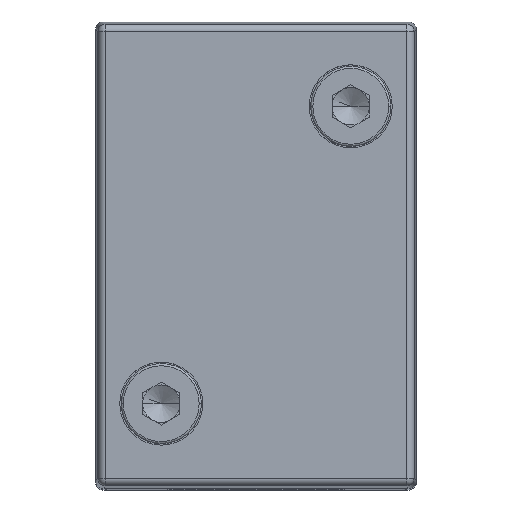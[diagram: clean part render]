
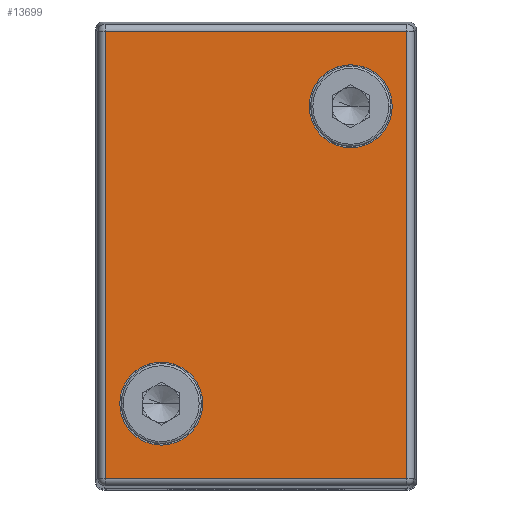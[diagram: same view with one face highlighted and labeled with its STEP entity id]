
A CAD part, top view. The second image highlights one B-rep face of the part: STEP entity #13699.
In plain terms, the highlighted planar face has unit normal (0, 0, 1).
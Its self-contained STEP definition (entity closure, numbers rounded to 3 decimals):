
#1812 = CARTESIAN_POINT ( 'NONE',  ( 21.343, 0.657, 74.5 ) ) ;
#1828 = DIRECTION ( 'NONE',  ( -1., 0., 0. ) ) ;
#1829 = VECTOR ( 'NONE', #1828, 1000. ) ;
#1830 = CARTESIAN_POINT ( 'NONE',  ( 22., 31.343, 74.5 ) ) ;
#1831 = LINE ( 'NONE', #1830, #1829 ) ;
#1842 = CARTESIAN_POINT ( 'NONE',  ( 0.657, 31.343, 74.5 ) ) ;
#1860 = CARTESIAN_POINT ( 'NONE',  ( 21.343, 31.343, 74.5 ) ) ;
#1872 = DIRECTION ( 'NONE',  ( 0., -1., 0. ) ) ;
#1873 = VECTOR ( 'NONE', #1872, 1000. ) ;
#1874 = CARTESIAN_POINT ( 'NONE',  ( 0.657, 32., 74.5 ) ) ;
#1875 = LINE ( 'NONE', #1874, #1873 ) ;
#1876 = CARTESIAN_POINT ( 'NONE',  ( 0.657, 0.657, 74.5 ) ) ;
#1948 = DIRECTION ( 'NONE',  ( 0., 1., 0. ) ) ;
#1949 = VECTOR ( 'NONE', #1948, 1000. ) ;
#1950 = CARTESIAN_POINT ( 'NONE',  ( 21.343, 32., 74.5 ) ) ;
#1951 = LINE ( 'NONE', #1950, #1949 ) ;
#2033 = DIRECTION ( 'NONE',  ( 1., 0., 0. ) ) ;
#2034 = VECTOR ( 'NONE', #2033, 1000. ) ;
#2035 = CARTESIAN_POINT ( 'NONE',  ( 22., 0.657, 74.5 ) ) ;
#2036 = LINE ( 'NONE', #2035, #2034 ) ;
#2042 = DIRECTION ( 'NONE',  ( 1., 0., 0. ) ) ;
#2043 = DIRECTION ( 'NONE',  ( 0., 0., 1. ) ) ;
#2044 = CARTESIAN_POINT ( 'NONE',  ( 4.5, 5.8, 74.5 ) ) ;
#2045 = AXIS2_PLACEMENT_3D ( 'NONE', #2044, #2043, #2042 ) ;
#2046 = CIRCLE ( 'NONE', #2045, 2.85 ) ;
#2048 = DIRECTION ( 'NONE',  ( 1., 0., 0. ) ) ;
#2049 = DIRECTION ( 'NONE',  ( 0., 0., 1. ) ) ;
#2050 = CARTESIAN_POINT ( 'NONE',  ( 22., 32., 74.5 ) ) ;
#2051 = AXIS2_PLACEMENT_3D ( 'NONE', #2050, #2049, #2048 ) ;
#2052 = PLANE ( 'NONE',  #2051 ) ;
#2053 = FACE_BOUND ( 'NONE', #13684, .T. ) ;
#2054 = FACE_BOUND ( 'NONE', #13705, .T. ) ;
#2055 = FACE_OUTER_BOUND ( 'NONE', #13700, .T. ) ;
#2094 = DIRECTION ( 'NONE',  ( 1., 0., 0. ) ) ;
#2095 = DIRECTION ( 'NONE',  ( 0., 0., 1. ) ) ;
#2096 = CARTESIAN_POINT ( 'NONE',  ( 17.5, 26.2, 74.5 ) ) ;
#2097 = AXIS2_PLACEMENT_3D ( 'NONE', #2096, #2095, #2094 ) ;
#2098 = CIRCLE ( 'NONE', #2097, 2.85 ) ;
#3909 = CARTESIAN_POINT ( 'NONE',  ( 14.65, 26.2, 74.5 ) ) ;
#4027 = CARTESIAN_POINT ( 'NONE',  ( 7.35, 5.8, 74.5 ) ) ;
#4028 = DIRECTION ( 'NONE',  ( 1., 0., 0. ) ) ;
#4029 = DIRECTION ( 'NONE',  ( 0., 0., 1. ) ) ;
#4030 = CARTESIAN_POINT ( 'NONE',  ( 4.5, 5.8, 74.5 ) ) ;
#4031 = AXIS2_PLACEMENT_3D ( 'NONE', #4030, #4029, #4028 ) ;
#4032 = CIRCLE ( 'NONE', #4031, 2.85 ) ;
#4039 = CARTESIAN_POINT ( 'NONE',  ( 1.65, 5.8, 74.5 ) ) ;
#4062 = CARTESIAN_POINT ( 'NONE',  ( 20.35, 26.2, 74.5 ) ) ;
#4063 = DIRECTION ( 'NONE',  ( 1., 0., 0. ) ) ;
#4064 = DIRECTION ( 'NONE',  ( 0., 0., 1. ) ) ;
#4065 = CARTESIAN_POINT ( 'NONE',  ( 17.5, 26.2, 74.5 ) ) ;
#4066 = AXIS2_PLACEMENT_3D ( 'NONE', #4065, #4064, #4063 ) ;
#4067 = CIRCLE ( 'NONE', #4066, 2.85 ) ;
#13562 = EDGE_CURVE ( 'NONE', #13578, #13587, #1831, .T. ) ;
#13570 = VERTEX_POINT ( 'NONE', #1812 ) ;
#13578 = VERTEX_POINT ( 'NONE', #1860 ) ;
#13587 = VERTEX_POINT ( 'NONE', #1842 ) ;
#13605 = VERTEX_POINT ( 'NONE', #1876 ) ;
#13607 = EDGE_CURVE ( 'NONE', #13587, #13605, #1875, .T. ) ;
#13632 = EDGE_CURVE ( 'NONE', #13570, #13578, #1951, .T. ) ;
#13672 = EDGE_CURVE ( 'NONE', #13605, #13570, #2036, .T. ) ;
#13682 = ORIENTED_EDGE ( 'NONE', *, *, #13707, .F. ) ;
#13683 = ORIENTED_EDGE ( 'NONE', *, *, #14838, .F. ) ;
#13684 = EDGE_LOOP ( 'NONE', ( #13685, #13686 ) ) ;
#13685 = ORIENTED_EDGE ( 'NONE', *, *, #13715, .F. ) ;
#13686 = ORIENTED_EDGE ( 'NONE', *, *, #14854, .F. ) ;
#13699 = ADVANCED_FACE ( 'NONE', ( #2055, #2054, #2053 ), #2052, .T. ) ;
#13700 = EDGE_LOOP ( 'NONE', ( #13701, #13702, #13703, #13704 ) ) ;
#13701 = ORIENTED_EDGE ( 'NONE', *, *, #13607, .T. ) ;
#13702 = ORIENTED_EDGE ( 'NONE', *, *, #13672, .T. ) ;
#13703 = ORIENTED_EDGE ( 'NONE', *, *, #13632, .T. ) ;
#13704 = ORIENTED_EDGE ( 'NONE', *, *, #13562, .T. ) ;
#13705 = EDGE_LOOP ( 'NONE', ( #13682, #13683 ) ) ;
#13707 = EDGE_CURVE ( 'NONE', #14839, #14866, #2046, .T. ) ;
#13715 = EDGE_CURVE ( 'NONE', #14855, #14805, #2098, .T. ) ;
#14805 = VERTEX_POINT ( 'NONE', #3909 ) ;
#14838 = EDGE_CURVE ( 'NONE', #14866, #14839, #4032, .T. ) ;
#14839 = VERTEX_POINT ( 'NONE', #4027 ) ;
#14854 = EDGE_CURVE ( 'NONE', #14805, #14855, #4067, .T. ) ;
#14855 = VERTEX_POINT ( 'NONE', #4062 ) ;
#14866 = VERTEX_POINT ( 'NONE', #4039 ) ;
